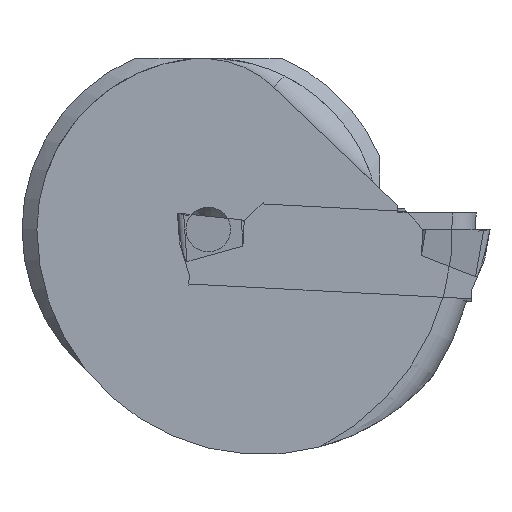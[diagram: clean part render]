
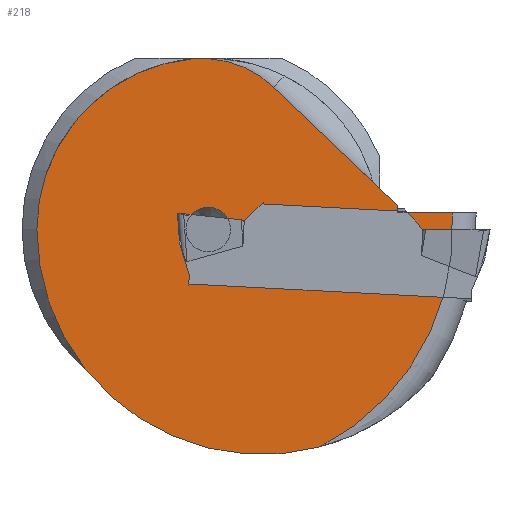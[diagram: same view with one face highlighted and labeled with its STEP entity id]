
A CAD part, left-side view. The second image highlights one B-rep face of the part: STEP entity #218.
In plain terms, the highlighted planar face has unit normal (-1, 0, 0).
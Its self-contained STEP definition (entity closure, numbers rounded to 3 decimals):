
#91=PLANE('',#1430);
#110=CIRCLE('',#1425,1.5);
#111=CIRCLE('',#1426,7.);
#112=CIRCLE('',#1427,11.5);
#113=CIRCLE('',#1428,15.1);
#114=CIRCLE('',#1429,16.4);
#153=FACE_BOUND('',#371,.T.);
#154=FACE_BOUND('',#372,.T.);
#218=ADVANCED_FACE('',(#153,#154),#91,.F.);
#371=EDGE_LOOP('',(#906));
#372=EDGE_LOOP('',(#907,#908,#909,#910,#911,#912,#913));
#507=LINE('',#2131,#624);
#508=LINE('',#2142,#625);
#509=LINE('',#2144,#626);
#624=VECTOR('',#1731,1.);
#625=VECTOR('',#1740,1.);
#626=VECTOR('',#1741,1.);
#906=ORIENTED_EDGE('',*,*,#1277,.T.);
#907=ORIENTED_EDGE('',*,*,#1278,.T.);
#908=ORIENTED_EDGE('',*,*,#1279,.T.);
#909=ORIENTED_EDGE('',*,*,#1280,.T.);
#910=ORIENTED_EDGE('',*,*,#1281,.F.);
#911=ORIENTED_EDGE('',*,*,#1282,.T.);
#912=ORIENTED_EDGE('',*,*,#1283,.F.);
#913=ORIENTED_EDGE('',*,*,#1284,.T.);
#1106=VERTEX_POINT('',#2130);
#1107=VERTEX_POINT('',#2132);
#1108=VERTEX_POINT('',#2133);
#1109=VERTEX_POINT('',#2135);
#1110=VERTEX_POINT('',#2137);
#1111=VERTEX_POINT('',#2139);
#1112=VERTEX_POINT('',#2141);
#1113=VERTEX_POINT('',#2143);
#1277=EDGE_CURVE('',#1106,#1106,#110,.T.);
#1278=EDGE_CURVE('',#1107,#1108,#507,.T.);
#1279=EDGE_CURVE('',#1108,#1109,#111,.T.);
#1280=EDGE_CURVE('',#1109,#1110,#112,.T.);
#1281=EDGE_CURVE('',#1111,#1110,#113,.T.);
#1282=EDGE_CURVE('',#1111,#1112,#114,.T.);
#1283=EDGE_CURVE('',#1113,#1112,#508,.T.);
#1284=EDGE_CURVE('',#1113,#1107,#509,.T.);
#1425=AXIS2_PLACEMENT_3D('',#2129,#1729,#1730);
#1426=AXIS2_PLACEMENT_3D('',#2134,#1732,#1733);
#1427=AXIS2_PLACEMENT_3D('',#2136,#1734,#1735);
#1428=AXIS2_PLACEMENT_3D('',#2138,#1736,#1737);
#1429=AXIS2_PLACEMENT_3D('',#2140,#1738,#1739);
#1430=AXIS2_PLACEMENT_3D('',#2145,#1742,#1743);
#1729=DIRECTION('',(1.,0.,0.));
#1730=DIRECTION('',(0.,1.,0.));
#1731=DIRECTION('',(0.,0.724,0.69));
#1732=DIRECTION('',(-1.,0.,0.));
#1733=DIRECTION('',(0.,-1.,0.));
#1734=DIRECTION('',(-1.,0.,0.));
#1735=DIRECTION('',(0.,1.,0.));
#1736=DIRECTION('',(1.,0.,0.));
#1737=DIRECTION('',(0.,1.,0.));
#1738=DIRECTION('',(-1.,0.,0.));
#1739=DIRECTION('',(0.,1.,0.));
#1740=DIRECTION('',(0.,-1.,0.));
#1741=DIRECTION('',(0.,0.,1.));
#1742=DIRECTION('',(1.,0.,0.));
#1743=DIRECTION('',(0.,1.,0.));
#2129=CARTESIAN_POINT('',(0.4,18.9,0.));
#2130=CARTESIAN_POINT('',(0.4,20.4,0.));
#2131=CARTESIAN_POINT('',(0.4,6.174,1.607));
#2132=CARTESIAN_POINT('',(0.4,6.174,1.607));
#2133=CARTESIAN_POINT('',(0.4,14.512,9.548));
#2134=CARTESIAN_POINT('',(0.4,19.34,4.478));
#2135=CARTESIAN_POINT('',(0.4,20.024,11.445));
#2136=CARTESIAN_POINT('',(0.4,18.9,0.));
#2137=CARTESIAN_POINT('',(0.4,30.4,0.));
#2138=CARTESIAN_POINT('',(0.4,15.3,0.));
#2139=CARTESIAN_POINT('',(0.4,11.413,-14.591));
#2140=CARTESIAN_POINT('',(0.4,18.9,0.));
#2141=CARTESIAN_POINT('',(0.4,2.537,1.107));
#2142=CARTESIAN_POINT('',(0.4,6.174,1.107));
#2143=CARTESIAN_POINT('',(0.4,6.174,1.107));
#2144=CARTESIAN_POINT('',(0.4,6.174,1.107));
#2145=CARTESIAN_POINT('',(0.4,18.9,0.));
